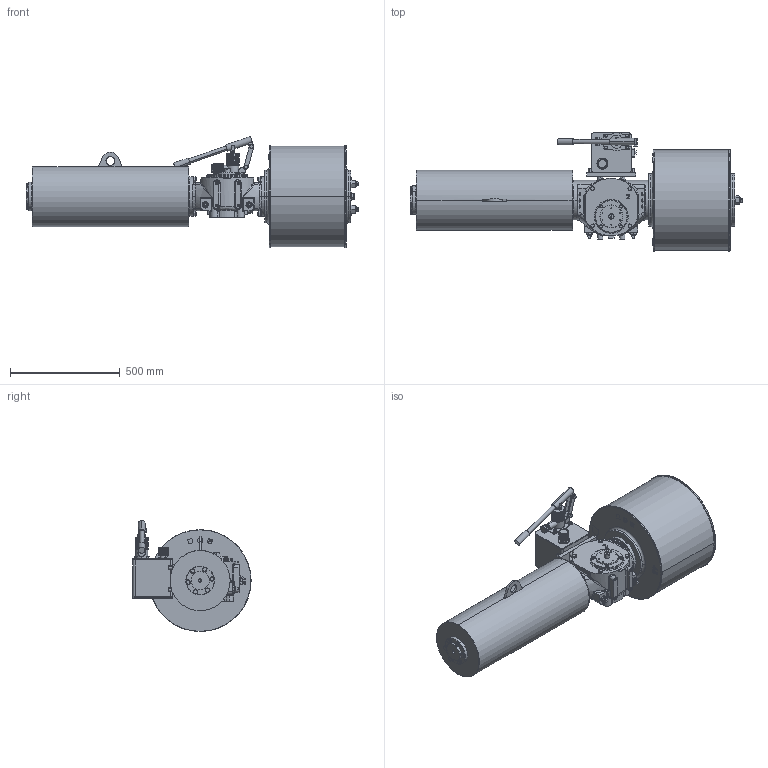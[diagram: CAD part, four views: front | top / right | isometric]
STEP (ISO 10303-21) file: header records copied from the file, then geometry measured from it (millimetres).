
FILE_DESCRIPTION (( 'STEP AP203' ), '1' );
FILE_NAME ('VTS2-450-SR-MH-FO.STEP', '2023-01-01T08:32:48', ( '' ), ( '' ), 'SwSTEP 2.0', 'SolidWorks 2020', '' );
FILE_SCHEMA (( 'CONFIG_CONTROL_DESIGN' ));
Products named in the file (1): VTS2-450-SR-MH-FO
Bounding box: 1511 x 538.22 x 505.77 mm (x, y, z)
Volume: 116632058.8 mm3; surface area: 2871713.7 mm2
Topology: 66 solids, 68 shells, 2598 faces, 6274 edges, 3915 vertices
Faces by surface type: plane 978, cylinder 886, cone 580, bspline 142, torus 12
Entity records: 89262 total; most frequent: CARTESIAN_POINT 29084, DIRECTION 12721, ORIENTED_EDGE 12420, EDGE_CURVE 6210, AXIS2_PLACEMENT_3D 5026, VERTEX_POINT 3915, EDGE_LOOP 2913, LINE 2669
